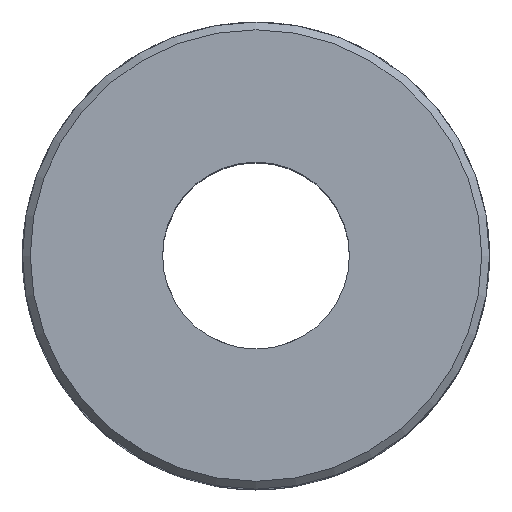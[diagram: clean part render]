
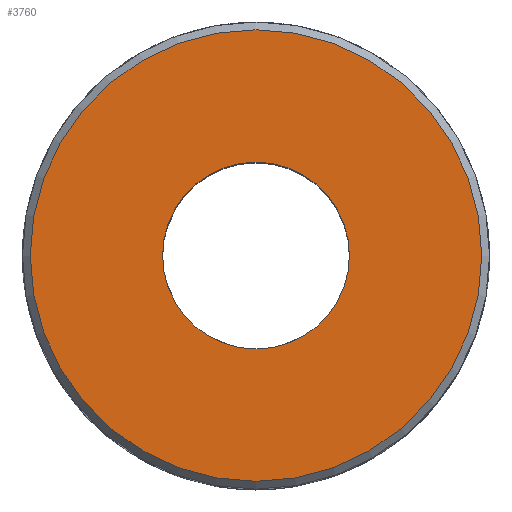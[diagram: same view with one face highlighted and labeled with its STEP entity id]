
A CAD part, top view. The second image highlights one B-rep face of the part: STEP entity #3760.
In plain terms, the highlighted planar face has unit normal (0, 0, 1).
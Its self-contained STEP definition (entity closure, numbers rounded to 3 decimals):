
#190 = ORIENTED_EDGE ( 'NONE', *, *, #3769, .F. ) ;
#192 = CARTESIAN_POINT ( 'NONE',  ( 0., 0., 0. ) ) ;
#302 = FACE_OUTER_BOUND ( 'NONE', #1004, .T. ) ;
#470 = FACE_BOUND ( 'NONE', #770, .T. ) ;
#471 = DIRECTION ( 'NONE',  ( 0., 0., 1. ) ) ;
#770 = EDGE_LOOP ( 'NONE', ( #190 ) ) ;
#1004 = EDGE_LOOP ( 'NONE', ( #4324 ) ) ;
#1199 = EDGE_CURVE ( 'NONE', #2606, #2606, #4781, .T. ) ;
#1306 = CIRCLE ( 'NONE', #3896, 6. ) ;
#1621 = DIRECTION ( 'NONE',  ( 0., 0., 1. ) ) ;
#1773 = CARTESIAN_POINT ( 'NONE',  ( 14.5, 0., 0. ) ) ;
#2038 = CARTESIAN_POINT ( 'NONE',  ( 0., 0., 0. ) ) ;
#2606 = VERTEX_POINT ( 'NONE', #1773 ) ;
#2876 = DIRECTION ( 'NONE',  ( 1., 0., 0. ) ) ;
#3054 = VERTEX_POINT ( 'NONE', #4270 ) ;
#3215 = PLANE ( 'NONE',  #4714 ) ;
#3553 = DIRECTION ( 'NONE',  ( 1., 0., 0. ) ) ;
#3760 = ADVANCED_FACE ( 'NONE', ( #302, #470 ), #3215, .T. ) ;
#3769 = EDGE_CURVE ( 'NONE', #3054, #3054, #1306, .T. ) ;
#3896 = AXIS2_PLACEMENT_3D ( 'NONE', #2038, #1621, #3553 ) ;
#4041 = DIRECTION ( 'NONE',  ( 1., 0., 0. ) ) ;
#4270 = CARTESIAN_POINT ( 'NONE',  ( 6., 0., 0. ) ) ;
#4324 = ORIENTED_EDGE ( 'NONE', *, *, #1199, .T. ) ;
#4356 = CARTESIAN_POINT ( 'NONE',  ( 0., 0., 0. ) ) ;
#4545 = AXIS2_PLACEMENT_3D ( 'NONE', #192, #471, #2876 ) ;
#4714 = AXIS2_PLACEMENT_3D ( 'NONE', #4356, #4817, #4041 ) ;
#4781 = CIRCLE ( 'NONE', #4545, 14.5 ) ;
#4817 = DIRECTION ( 'NONE',  ( 0., 0., 1. ) ) ;
